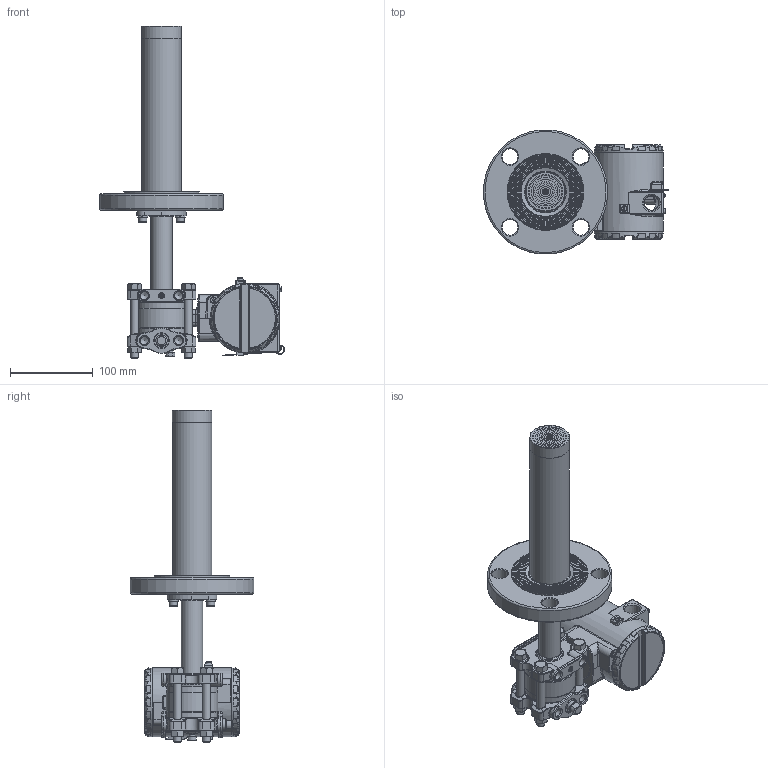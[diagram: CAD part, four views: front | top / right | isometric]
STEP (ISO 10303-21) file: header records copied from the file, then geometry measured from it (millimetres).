
FILE_DESCRIPTION(/* description */ (''),/* implementation_level */ '2;1');
FILE_NAME(/* name */ 'F:\Area\Desenvolvimento_2\Projects\Sensor\projetos\LD30X\montagens 3d - clientes\SELO NIVEL\LD30XL 2-150 RF ext 200 ref 1-4NPT purga acima.stp',/* time_stamp */ '2023-02-10T15:47:55-03:00',/* author */ ('inventor02'),/* organization */ (''),/* preprocessor_version */ 'ST-DEVELOPER v17',/* originating_system */ 'Autodesk Inventor 2019',/* authorisation */ '');
FILE_SCHEMA (('CONFIG_CONTROL_DESIGN'));
Products named in the file (41): LD30XL 2-150 RF ext 200 ref 1-4NPT purga acima; 204-0301-L-2 150 RF ext 200 purga acima; nivel fx3 com baixa diferencial 1-4NPT purga acima; involucro fx0-3 apos a usinagem final; flange diferencial std purga; 101-C-7484-01 flange selo nivel VR; 201-A-0504-tubo união teste 1; bujao 1-4NPT; Sangria; Porca 3-8 x 16 UNC; Paraf. 3-8 x 16 UNC; adaptação tubo x flanges 1-1-2 a 4pol; 101-B-0161-anel cortado do tubo - teste1; 101-B-0162-flange fixação tubo; ANSI B18.3.1M - M6x1 x 16; DIN 127 - A 6; flange 2 150 ext 200; 101-C-0108-10; 101-B-7700-01-200; 101-B-0168-11; carcaça vazia com tampas e plaqueta; carcaça LD inox sem letras; Subconjunto plaqueta 300; Plaqueta transmissor; Parafuso da Plaqueta; Rebite da Plaqueta; 096-A-0169-03; 101-A-0502-01; Chapa aterramento externo; ISO 1207 - M4 x 8; DIN 915 - M6 x 10; ANSI B18.3.1M - M4x0,7 x 8; Subconjunto tampa com visor aluminio; tampa pintada; VIDRO DO VISOR; oring 41x1 vidro tampa; Trava do vidro da tampa com visor; trava do vidro VH256; Subconjunto tampa sem visor-aluminio; tampa cega 300 pintada p0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
Assembly tree (51 placements, depth 4):
  LD30XL 2-150 RF ext 200 ref 1-4NPT purga acima
    204-0301-L-2 150 RF ext 200 purga acima
      nivel fx3 com baixa diferencial 1-4NPT purga acima
        involucro fx0-3 apos a usinagem final
        flange diferencial std purga
        101-C-7484-01 flange selo nivel VR
        201-A-0504-tubo união teste 1
        DIN 915 - M6 x 10
        bujao 1-4NPT
        Sangria
        Porca 3-8 x 16 UNC  x4
        Paraf. 3-8 x 16 UNC  x4
      adaptação tubo x flanges 1-1-2 a 4pol
        101-B-0161-anel cortado do tubo - teste1
        101-B-0162-flange fixação tubo
        ANSI B18.3.1M - M6x1 x 16  x2
        DIN 127 - A 6  x2
      flange 2 150 ext 200
        101-C-0108-10
        101-B-7700-01-200
        101-B-0168-11
    carcaça vazia com tampas e plaqueta
      carcaça LD inox sem letras
      Subconjunto plaqueta 300
        Plaqueta transmissor
        Parafuso da Plaqueta
        Rebite da Plaqueta
        096-A-0169-03
        101-A-0502-01
      Chapa aterramento externo
      ISO 1207 - M4 x 8
      DIN 915 - M6 x 10
      ANSI B18.3.1M - M4x0,7 x 8  x2
      Subconjunto tampa com visor aluminio
        tampa pintada
        VIDRO DO VISOR
        oring 41x1 vidro tampa
        Trava do vidro da tampa com visor
        trava do vidro VH256
        00034775-0
      Subconjunto tampa sem visor-aluminio
        tampa cega 300 pintada p0
        00034775-0
Bounding box: 223 x 149.43 x 400.3 mm (x, y, z)
Volume: 1048295.3 mm3; surface area: 362972.9 mm2
Topology: 43 solids, 43 shells, 2744 faces, 6563 edges, 3884 vertices
Faces by surface type: bspline 666, cylinder 656, plane 569, torus 479, cone 248, sphere 126
Full cylindrical faces by diameter (mm): 2 x4, 2.1 x2, 2.459 x5, 2.5 x1, 2.642 x1, 2.7 x1, 2.8 x1, 3 x4, 3.242 x4, 3.5 x5, 3.571 x1, 4 x5, 4.3 x1, 4.4 x1, 4.917 x4, 5 x1, 5.5 x3, 6 x6, 6.647 x1, 7 x7, 7.087 x2, 7.6 x2, 7.798 x4, 8 x1, 8.7 x2, 9.525 x4, 9.728 x6, 10 x2, 10.5 x8, 10.719 x2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
Entity records: 94675 total; most frequent: CARTESIAN_POINT 34640, DIRECTION 12393, ORIENTED_EDGE 12306, EDGE_CURVE 6153, AXIS2_PLACEMENT_3D 5475, VERTEX_POINT 3690, CIRCLE 3241, EDGE_LOOP 2793
